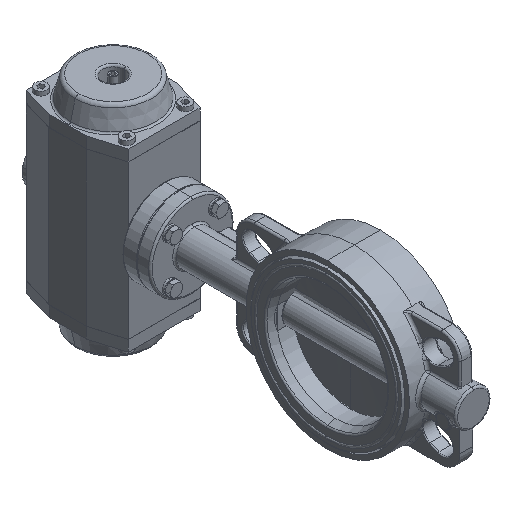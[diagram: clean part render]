
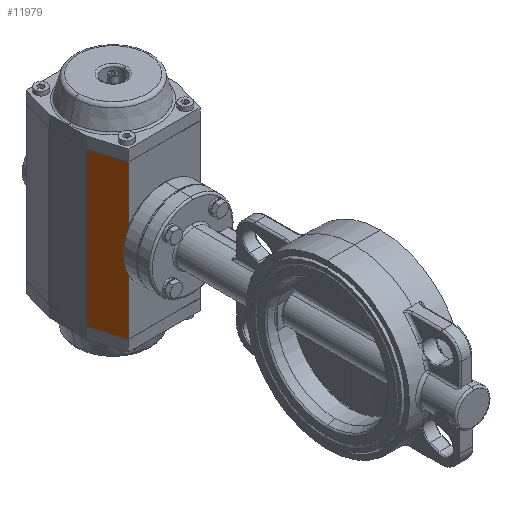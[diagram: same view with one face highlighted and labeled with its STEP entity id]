
A CAD part, isometric view. The second image highlights one B-rep face of the part: STEP entity #11979.
In plain terms, the highlighted planar face has unit normal (-0.958, -0.287, 0).
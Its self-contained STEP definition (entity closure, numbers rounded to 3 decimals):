
#176 = DIRECTION ( 'NONE',  ( 0., 0., 1. ) ) ;
#461 = VERTEX_POINT ( 'NONE', #27354 ) ;
#2413 = CARTESIAN_POINT ( 'NONE',  ( -38.5, -55., -82.5 ) ) ;
#2421 = CARTESIAN_POINT ( 'NONE',  ( -38.5, -55., -82.5 ) ) ;
#3110 = LINE ( 'NONE', #19354, #38160 ) ;
#3391 = ORIENTED_EDGE ( 'NONE', *, *, #32694, .F. ) ;
#4003 = CARTESIAN_POINT ( 'NONE',  ( -49., -20., 82.5 ) ) ;
#5574 = DIRECTION ( 'NONE',  ( -0.287, 0.958, 0. ) ) ;
#7688 = VECTOR ( 'NONE', #22698, 1000. ) ;
#8795 = DIRECTION ( 'NONE',  ( 0.958, 0.287, 0. ) ) ;
#10133 = VECTOR ( 'NONE', #11867, 1000. ) ;
#11867 = DIRECTION ( 'NONE',  ( 0., 0., 1. ) ) ;
#11979 = ADVANCED_FACE ( 'NONE', ( #14528 ), #28052, .F. ) ;
#11982 = VECTOR ( 'NONE', #5574, 1000. ) ;
#12215 = EDGE_LOOP ( 'NONE', ( #37938, #32566, #23097, #3391 ) ) ;
#14026 = LINE ( 'NONE', #2413, #11982 ) ;
#14528 = FACE_OUTER_BOUND ( 'NONE', #12215, .T. ) ;
#19354 = CARTESIAN_POINT ( 'NONE',  ( -38.5, -55., -82.5 ) ) ;
#19483 = CARTESIAN_POINT ( 'NONE',  ( -38.5, -55., 82.5 ) ) ;
#21187 = EDGE_CURVE ( 'NONE', #28393, #39315, #34671, .T. ) ;
#22698 = DIRECTION ( 'NONE',  ( -0.287, 0.958, 0. ) ) ;
#23097 = ORIENTED_EDGE ( 'NONE', *, *, #21187, .F. ) ;
#23819 = AXIS2_PLACEMENT_3D ( 'NONE', #2421, #8795, #31243 ) ;
#24453 = CARTESIAN_POINT ( 'NONE',  ( -49., -20., -82.5 ) ) ;
#25105 = EDGE_CURVE ( 'NONE', #461, #39315, #32294, .T. ) ;
#27354 = CARTESIAN_POINT ( 'NONE',  ( -38.5, -55., 82.5 ) ) ;
#28052 = PLANE ( 'NONE',  #23819 ) ;
#28393 = VERTEX_POINT ( 'NONE', #24453 ) ;
#29398 = VERTEX_POINT ( 'NONE', #31310 ) ;
#31099 = CARTESIAN_POINT ( 'NONE',  ( -49., -20., -82.5 ) ) ;
#31243 = DIRECTION ( 'NONE',  ( -0.287, 0.958, 0. ) ) ;
#31310 = CARTESIAN_POINT ( 'NONE',  ( -38.5, -55., -82.5 ) ) ;
#31627 = EDGE_CURVE ( 'NONE', #29398, #461, #3110, .T. ) ;
#32294 = LINE ( 'NONE', #19483, #7688 ) ;
#32566 = ORIENTED_EDGE ( 'NONE', *, *, #25105, .T. ) ;
#32694 = EDGE_CURVE ( 'NONE', #29398, #28393, #14026, .T. ) ;
#34671 = LINE ( 'NONE', #31099, #10133 ) ;
#37938 = ORIENTED_EDGE ( 'NONE', *, *, #31627, .T. ) ;
#38160 = VECTOR ( 'NONE', #176, 1000. ) ;
#39315 = VERTEX_POINT ( 'NONE', #4003 ) ;
